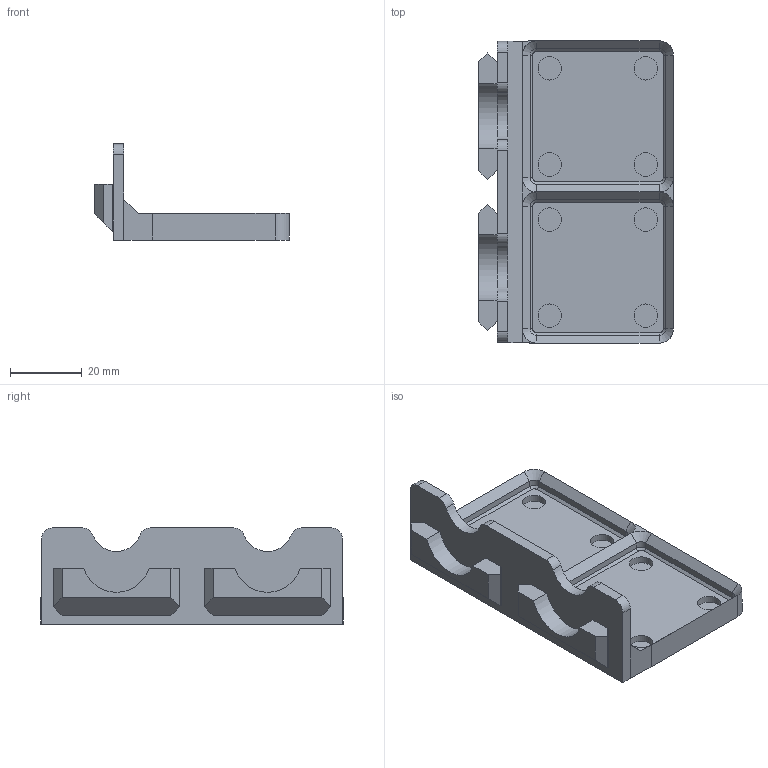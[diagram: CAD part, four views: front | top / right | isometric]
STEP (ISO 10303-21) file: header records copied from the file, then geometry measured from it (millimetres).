
FILE_DESCRIPTION(/* description */ ('','CAx-IF Rec.Pracs.---Representation and Presentation of Product Manufacturing Information (PMI)---4.0---2014-10-13'),/* implementation_level */ '2;1');
FILE_NAME(/* name */ 'Goews Double Hanger Gridfinity with Magnets 1x2 Base v6.step',/* time_stamp */ '2024-12-14T22:27:58-05:00',/* author */ (''),/* organization */ (''),/* preprocessor_version */ 'ST-DEVELOPER v20',/* originating_system */ 'Autodesk Translation Framework v13.20.0.188',/* authorisation */ '');
FILE_SCHEMA (('AP242_MANAGED_MODEL_BASED_3D_ENGINEERING_MIM_LF { 1 0 10303 442 1 1 4 }'));
Length unit declared in the file: millimetre
Products named in the file (1): Goews Double Hanger Gridfinity  with Magnets  1x2 Base
Bounding box: 54.15 x 84 x 26.72 mm (x, y, z)
Volume: 23803.2 mm3; surface area: 15139.9 mm2
Topology: 1 solids, 1 shells, 126 faces, 282 edges, 168 vertices
Faces by surface type: plane 76, cylinder 34, cone 16
Full cylindrical faces by diameter (mm): 6.5 x8
Entity records: 3457 total; most frequent: DIRECTION 614, CARTESIAN_POINT 577, ORIENTED_EDGE 564, EDGE_CURVE 282, AXIS2_PLACEMENT_3D 205, LINE 204, VECTOR 204, VERTEX_POINT 168
